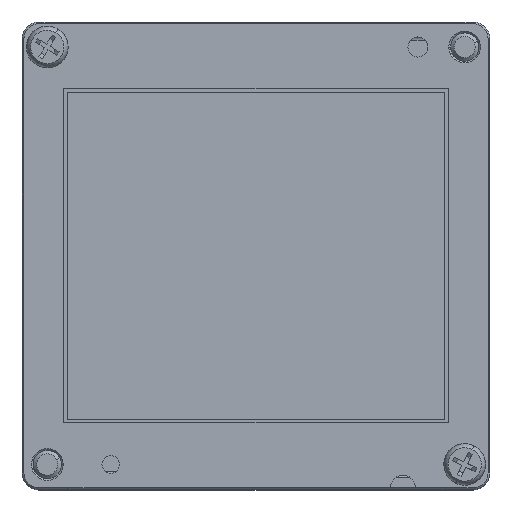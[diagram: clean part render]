
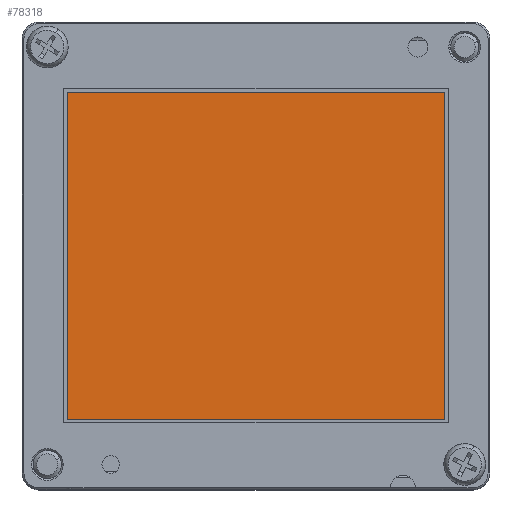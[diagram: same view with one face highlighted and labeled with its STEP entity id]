
A CAD part, top view. The second image highlights one B-rep face of the part: STEP entity #78318.
In plain terms, the highlighted planar face has unit normal (0, 0, 1).
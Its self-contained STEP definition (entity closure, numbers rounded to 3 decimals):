
#7710 = DIRECTION ( 'NONE',  ( 0., -1., 0. ) ) ;
#10746 = AXIS2_PLACEMENT_3D ( 'NONE', #72329, #91596, #110905 ) ;
#11880 = VECTOR ( 'NONE', #98300, 1000. ) ;
#13401 = DIRECTION ( 'NONE',  ( -1., 0., 0. ) ) ;
#20245 = DIRECTION ( 'NONE',  ( 0., 1., 0. ) ) ;
#20889 = ORIENTED_EDGE ( 'NONE', *, *, #42990, .T. ) ;
#22889 = VECTOR ( 'NONE', #7710, 1000. ) ;
#25175 = EDGE_CURVE ( 'NONE', #112902, #120925, #74755, .T. ) ;
#25981 = LINE ( 'NONE', #36801, #22889 ) ;
#36801 = CARTESIAN_POINT ( 'NONE',  ( -11.3, -9.8, 1.935 ) ) ;
#38352 = CARTESIAN_POINT ( 'NONE',  ( -11.3, -9.8, 1.935 ) ) ;
#41426 = ORIENTED_EDGE ( 'NONE', *, *, #25175, .T. ) ;
#42990 = EDGE_CURVE ( 'NONE', #120925, #80069, #95652, .T. ) ;
#49414 = EDGE_CURVE ( 'NONE', #80069, #91161, #78701, .T. ) ;
#51142 = CARTESIAN_POINT ( 'NONE',  ( -11.3, 9.8, 1.935 ) ) ;
#61370 = EDGE_LOOP ( 'NONE', ( #41426, #20889, #61523, #108058 ) ) ;
#61523 = ORIENTED_EDGE ( 'NONE', *, *, #49414, .T. ) ;
#63343 = VECTOR ( 'NONE', #13401, 1000. ) ;
#72329 = CARTESIAN_POINT ( 'NONE',  ( 0., 0., 1.935 ) ) ;
#74755 = LINE ( 'NONE', #38352, #11880 ) ;
#78318 = ADVANCED_FACE ( 'NONE', ( #101718 ), #112207, .T. ) ;
#78701 = LINE ( 'NONE', #51142, #63343 ) ;
#78852 = VECTOR ( 'NONE', #20245, 1000. ) ;
#80069 = VERTEX_POINT ( 'NONE', #92021 ) ;
#91161 = VERTEX_POINT ( 'NONE', #125490 ) ;
#91596 = DIRECTION ( 'NONE',  ( 0., 0., 1. ) ) ;
#92021 = CARTESIAN_POINT ( 'NONE',  ( 11.3, 9.8, 1.935 ) ) ;
#95652 = LINE ( 'NONE', #98694, #78852 ) ;
#98300 = DIRECTION ( 'NONE',  ( 1., 0., 0. ) ) ;
#98694 = CARTESIAN_POINT ( 'NONE',  ( 11.3, -9.8, 1.935 ) ) ;
#101718 = FACE_OUTER_BOUND ( 'NONE', #61370, .T. ) ;
#107225 = CARTESIAN_POINT ( 'NONE',  ( 11.3, -9.8, 1.935 ) ) ;
#108058 = ORIENTED_EDGE ( 'NONE', *, *, #121317, .T. ) ;
#110905 = DIRECTION ( 'NONE',  ( 1., 0., 0. ) ) ;
#112207 = PLANE ( 'NONE',  #10746 ) ;
#112902 = VERTEX_POINT ( 'NONE', #124100 ) ;
#120925 = VERTEX_POINT ( 'NONE', #107225 ) ;
#121317 = EDGE_CURVE ( 'NONE', #91161, #112902, #25981, .T. ) ;
#124100 = CARTESIAN_POINT ( 'NONE',  ( -11.3, -9.8, 1.935 ) ) ;
#125490 = CARTESIAN_POINT ( 'NONE',  ( -11.3, 9.8, 1.935 ) ) ;
